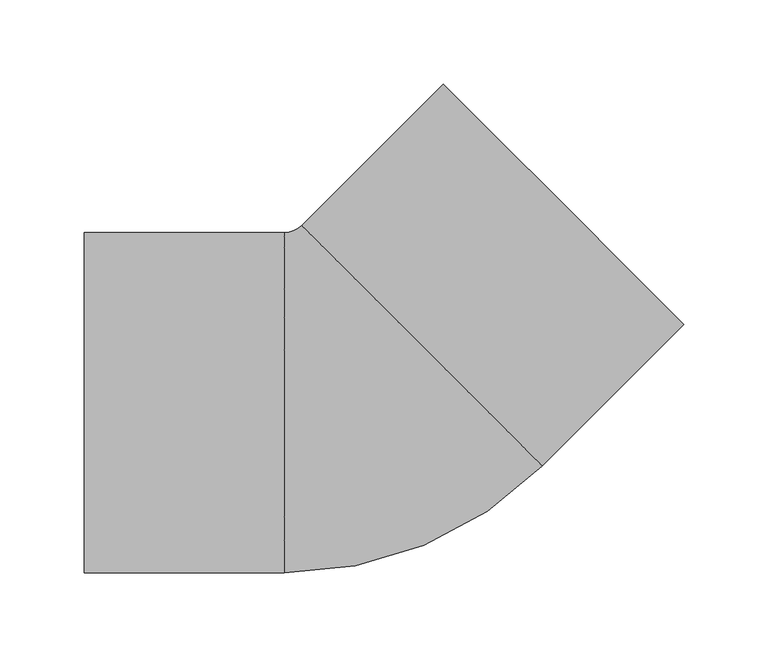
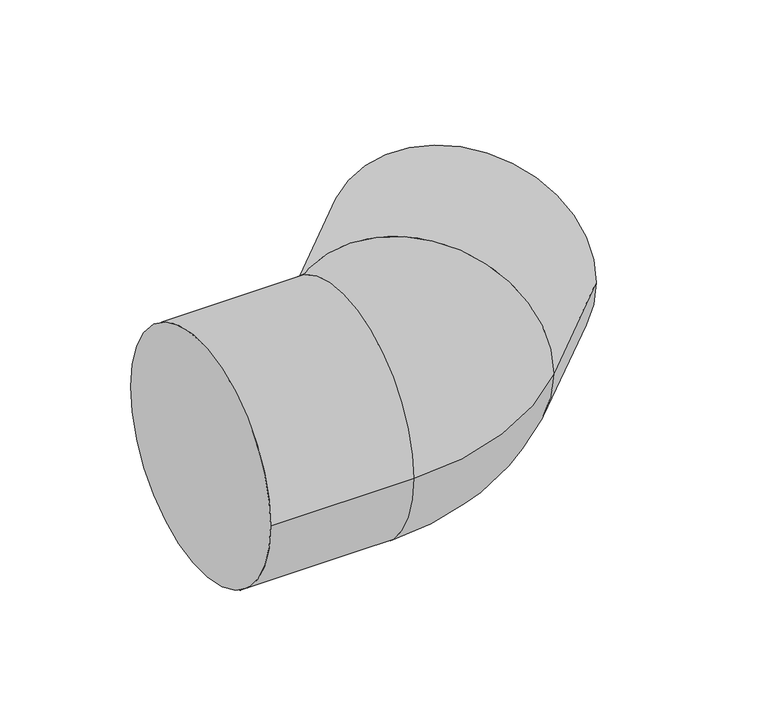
"""IFC4 building model written with IfcOpenShell, lengths in millimetres: pipe fitting geometry, 01051067 : Codos 45º."""

from ifc_helpers import new_model, si_unit, point, frame, origin, place, context, project, spatial, circle_curve, ellipse_curve, trimmed, source, transform, mapped, element, save
from ifc_brep_helpers import plane_surface, cylinder_surface, revolved_surface, advanced_brep


def pipe_fitting_eedd4dc4(model_context):
    return source(origin(), model_context, "Body", "AdvancedBrep", [
        advanced_brep(
        [(-167.0, -101.25, 0.0), (-167.0, 101.25, 0.0), (-48.0, -101.25, 0.0), (-48.0, 101.25, 0.0), (-37.6534361, 105.5356871, 0.0), (105.5356871, -37.6534361, 0.0), (189.6813941, 46.4922709, 0.0), (46.4922709, 189.6813941, 0.0)],
        [
            (0, 1, circle_curve(frame((-167.0, 0.0, 0.0), z_axis=(-1.0, 0.0, 0.0), x_axis=(0.0, 1.0, 0.0)), 101.25)),
            (1, 0, circle_curve(frame((-167.0, 0.0, 0.0), z_axis=(-1.0, 0.0, 0.0), x_axis=(0.0, 1.0, 0.0)), 101.25)),
            (0, 2),
            (2, 3, circle_curve(frame((-48.0, 0.0, 0.0), z_axis=(-1.0, 0.0, 0.0), x_axis=(0.0, 1.0, 0.0)), 101.25)),
            (3, 1),
            (3, 2, circle_curve(frame((-48.0, 0.0, 0.0), z_axis=(-1.0, 0.0, 0.0), x_axis=(0.0, 1.0, 0.0)), 101.25)),
            (4, 3, circle_curve(frame((-48.0, 115.882251, 0.0), z_axis=(0.0, 0.0, -1.0), x_axis=(0.0, -1.0, 0.0)), 14.632251)),
            (2, 5, circle_curve(frame((-48.0, 115.882251, 0.0), z_axis=(0.0, 0.0, 1.0), x_axis=(0.0, -1.0, 0.0)), 217.132251)),
            (5, 4, circle_curve(frame((33.9411255, 33.9411255, 0.0), z_axis=(-0.7071067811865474, -0.7071067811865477, 0.0), x_axis=(-0.7071067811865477, 0.7071067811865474, 0.0)), 101.25)),
            (4, 5, circle_curve(frame((33.9411255, 33.9411255, 0.0), z_axis=(-0.7071067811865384, -0.7071067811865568, 0.0), x_axis=(-0.7071067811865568, 0.7071067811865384, 0.0)), 101.25)),
            (6, 7, circle_curve(frame((118.0868325, 118.0868325, 0.0), z_axis=(0.7071067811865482, 0.7071067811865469, 0.0), x_axis=(-0.7071067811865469, 0.7071067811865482, 0.0)), 101.25)),
            (7, 6, circle_curve(frame((118.0868325, 118.0868325, 0.0), z_axis=(0.7071067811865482, 0.7071067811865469, 0.0), x_axis=(-0.7071067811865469, 0.7071067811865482, 0.0)), 101.25)),
            (5, 6),
            (7, 4),
        ],
        [
            plane_surface(frame((-167.0, 0.0, 0.0), z_axis=(-1.0, 0.0, 0.0), x_axis=(0.0, 0.0, 1.0))),
            cylinder_surface(frame((-167.0, 0.0, 0.0), z_axis=(-1.0, 0.0, 0.0), x_axis=(0.0, 1.0, 0.0)), 101.25),
            revolved_surface(trimmed(ellipse_curve(frame((-48.0, 0.0, 0.0), z_axis=(-1.0, 0.0, 0.0), x_axis=(0.0, 1.0, 0.0)), 101.25, 101.25), [point((-48.0, -101.25, 0.0))], [point((-48.0, 101.25, 0.0))], True, "CARTESIAN"), (-48.0, 115.882251, 0.0), (0.0, 0.0, 1.0)),
            revolved_surface(trimmed(ellipse_curve(frame((-48.0, 0.0, 0.0), z_axis=(-1.0, 0.0, 0.0), x_axis=(0.0, 1.0, 0.0)), 101.25, 101.25), [point((-48.0, 101.25, 0.0))], [point((-48.0, -101.25, 0.0))], True, "CARTESIAN"), (-48.0, 115.882251, 0.0), (0.0, 0.0, 1.0)),
            plane_surface(frame((118.0868325, 118.0868325, 0.0), z_axis=(0.7071067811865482, 0.7071067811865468, 0.0), x_axis=(0.0, 0.0, 1.0))),
            cylinder_surface(frame((33.9411255, 33.9411255, 0.0), z_axis=(-0.7071067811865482, -0.7071067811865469, 0.0), x_axis=(-0.7071067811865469, 0.7071067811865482, 0.0)), 101.25),
        ],
        [
            (0, [[1, 2]]),
            (1, [[-1, 3, 4, 5]]),
            (1, [[-2, -5, 6, -3]]),
            (2, [[7, -4, 8, 9]]),
            (3, [[-8, -6, -7, 10]]),
            (4, [[11, 12]]),
            (5, [[-9, 13, -12, 14]]),
            (5, [[-10, -14, -11, -13]]),
        ],
    ),
    ])


if __name__ == "__main__":
    model = new_model("IFC4")
    model_context = context("Model", 3, world=origin())
    ifc_project = project(units=[si_unit("LENGTHUNIT", "METRE", prefix="MILLI")], contexts=[model_context])
    site = spatial("IfcSite", under=ifc_project)
    building = spatial("IfcBuilding", under=site)
    placement = place(None, origin())
    pipe_fitting_shape = pipe_fitting_eedd4dc4(model_context)
    element("IfcPipeFitting", 1, ObjectType="01051067 : Codos 45º", at=placement, inside=building, context=model_context, shape_type="MappedRepresentation", body=[
        mapped(pipe_fitting_shape, transform((0.0, 0.0, 0.0), x_axis=(1.0, 0.0, 0.0), y_axis=(0.0, 1.0, 0.0), z_axis=(0.0, 0.0, 1.0))),
    ])
    save(model, "model.ifc")
